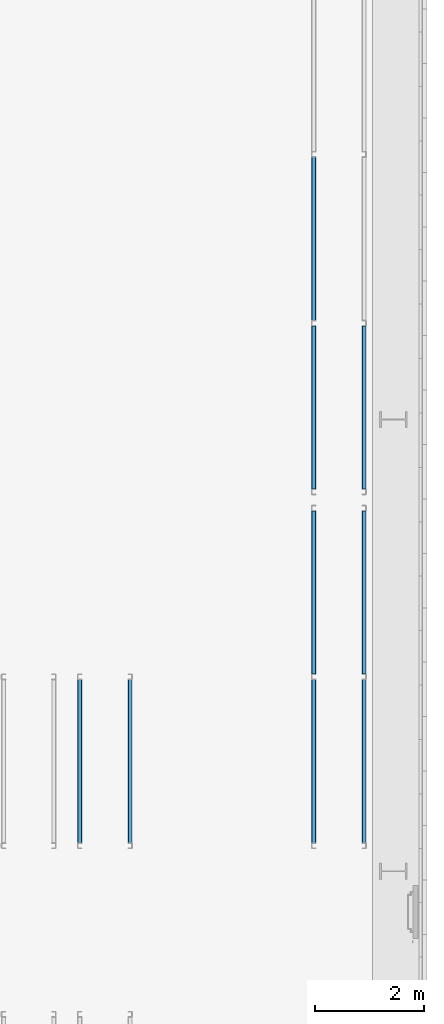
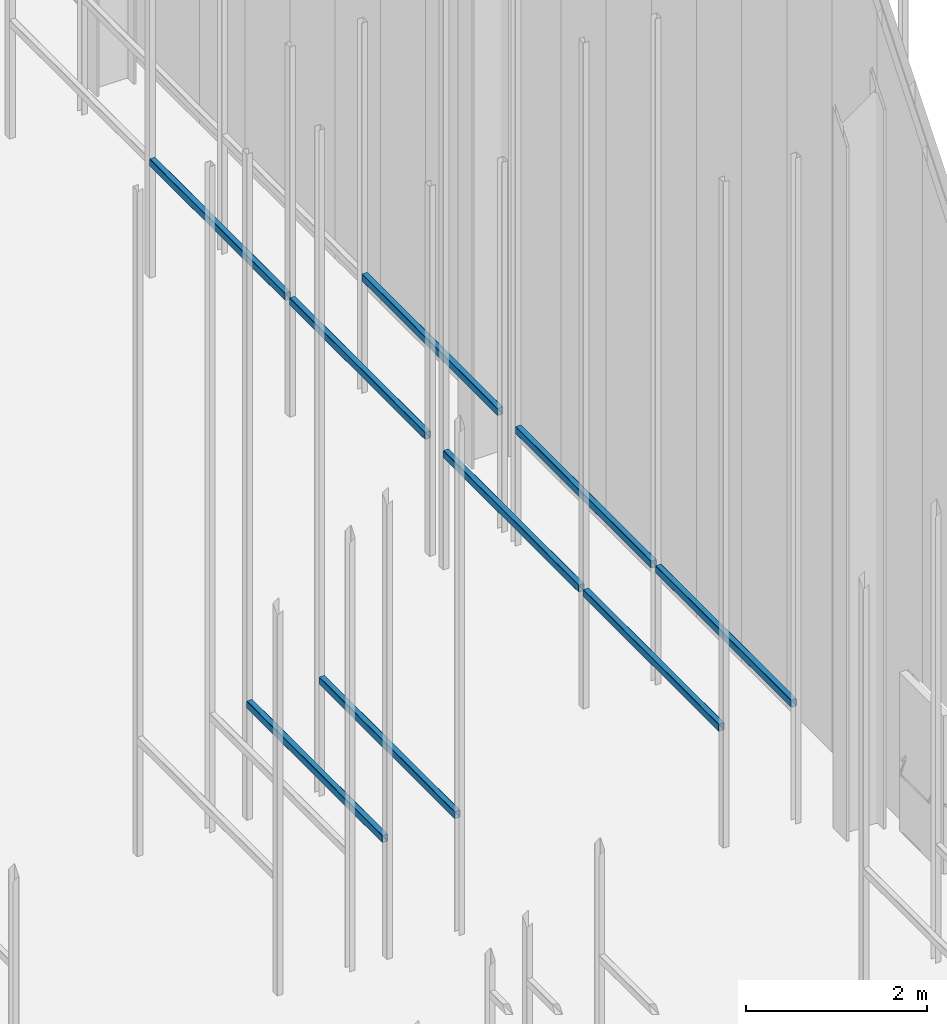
# One storey, part 156 of 302: 9 beams.
"""IFC2X3 building model written with IfcOpenShell, lengths in metres."""

from ifc_helpers import new_model, entity, si_unit, converted_unit, derived_unit, direction, frame, frame_2d, origin, place, context, subcontext, project, spatial, polyline, circle_curve, parameter, trimmed, segment, composite_curve, outline, extrude, material, type_object, element, save


model = new_model("IFC2X3")

# Units and contexts
model_context = context("Model", 3, precision=1e-05, world=origin(), true_north=direction((6.12303176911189e-17, 1.0)))
body_context = subcontext(model_context, "Body", "Model", "MODEL_VIEW")
ifc_project = project(units=[si_unit("LENGTHUNIT", "METRE"), si_unit("AREAUNIT", "SQUARE_METRE"), si_unit("VOLUMEUNIT", "CUBIC_METRE"), converted_unit("PLANEANGLEUNIT", "DEGREE", entity("IfcRatioMeasure", 0.0174532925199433), si_unit("PLANEANGLEUNIT", "RADIAN"), dimensions=[0, 0, 0, 0, 0, 0, 0]), si_unit("MASSUNIT", "GRAM", prefix="KILO"), derived_unit("MASSDENSITYUNIT", [(si_unit("MASSUNIT", "GRAM", prefix="KILO"), 1), (si_unit("LENGTHUNIT", "METRE"), -3)]), derived_unit("MOMENTOFINERTIAUNIT", [(si_unit("LENGTHUNIT", "METRE"), 4)]), si_unit("TIMEUNIT", "SECOND"), si_unit("FREQUENCYUNIT", "HERTZ"), si_unit("THERMODYNAMICTEMPERATUREUNIT", "DEGREE_CELSIUS"), derived_unit("THERMALTRANSMITTANCEUNIT", [(si_unit("MASSUNIT", "GRAM", prefix="KILO"), 1), (si_unit("THERMODYNAMICTEMPERATUREUNIT", "KELVIN"), -1), (si_unit("TIMEUNIT", "SECOND"), -3)]), derived_unit("VOLUMETRICFLOWRATEUNIT", [(si_unit("LENGTHUNIT", "METRE"), 3), (si_unit("TIMEUNIT", "SECOND"), -1)]), si_unit("ELECTRICCURRENTUNIT", "AMPERE"), si_unit("ELECTRICVOLTAGEUNIT", "VOLT"), si_unit("POWERUNIT", "WATT"), si_unit("FORCEUNIT", "NEWTON", prefix="KILO"), si_unit("ILLUMINANCEUNIT", "LUX"), si_unit("LUMINOUSFLUXUNIT", "LUMEN"), si_unit("LUMINOUSINTENSITYUNIT", "CANDELA"), derived_unit("USERDEFINED", [(si_unit("MASSUNIT", "GRAM", prefix="KILO"), -1), (si_unit("LENGTHUNIT", "METRE"), -2), (si_unit("TIMEUNIT", "SECOND"), 3), (si_unit("LUMINOUSFLUXUNIT", "LUMEN"), 1)]), derived_unit("LINEARVELOCITYUNIT", [(si_unit("LENGTHUNIT", "METRE"), 1), (si_unit("TIMEUNIT", "SECOND"), -1)]), si_unit("PRESSUREUNIT", "PASCAL"), derived_unit("USERDEFINED", [(si_unit("LENGTHUNIT", "METRE"), -2), (si_unit("MASSUNIT", "GRAM", prefix="KILO"), 1), (si_unit("TIMEUNIT", "SECOND"), -2)]), derived_unit("LINEARFORCEUNIT", [(si_unit("MASSUNIT", "GRAM", prefix="KILO"), 1), (si_unit("LENGTHUNIT", "METRE"), 1), (si_unit("TIMEUNIT", "SECOND"), -2), (si_unit("LENGTHUNIT", "METRE"), -1)]), derived_unit("PLANARFORCEUNIT", [(si_unit("MASSUNIT", "GRAM", prefix="KILO"), 1), (si_unit("LENGTHUNIT", "METRE"), 1), (si_unit("TIMEUNIT", "SECOND"), -2), (si_unit("LENGTHUNIT", "METRE"), -2)])], contexts=[model_context])

# Site, building, storey
site_placement = place(None, origin())
site = spatial("IfcSite", under=ifc_project, at=site_placement, Name="Default", CompositionType="ELEMENT")
building_placement = place(site_placement, origin())
building = spatial("IfcBuilding", under=site, at=building_placement, CompositionType="ELEMENT")
storey_placement = place(building_placement, frame((0.0, 0.0, -1.3)))
storey = spatial("IfcBuildingStorey", under=building, at=storey_placement, Name="00_EG", CompositionType="ELEMENT", Elevation=-1.3)

# Beams
ifc_material = material(Name="Metall - Baustahl S235 blau")
beam_type = type_object("IfcBeamType", Name="RHS Träger (EN 10219-2):RHS 100 x 75 x 5", PredefinedType="NOTDEFINED")
beam_1_placement = place(storey_placement, frame((-179.315111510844, 58.4480889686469, 2.885), z_axis=(0.0, 0.0, 1.0), x_axis=(0.0, 1.0, 0.0)))
element("IfcBeam", 1, at=beam_1_placement, inside=storey, type_object=beam_type, material=ifc_material, Name="RHS Träger (EN 10219-2):RHS 100 x 75 x 5", ObjectType="RHS Träger (EN 10219-2):RHS 100 x 75 x 5", context=body_context, shape_type="SweptSolid", body=[
    extrude(outline(composite_curve([segment(trimmed(circle_curve(frame_2d((-0.0274999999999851, -0.0400000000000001), x_axis=(1.0, 0.0)), 0.01), [parameter(180.0)], [parameter(270.0)], True, "PARAMETER"), True, "CONTINUOUS"), segment(polyline([(-0.0274999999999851, -0.05), (0.0274999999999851, -0.05)]), True, "CONTINUOUS"), segment(trimmed(circle_curve(frame_2d((0.0274999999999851, -0.0400000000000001), x_axis=(1.0, 0.0)), 0.01), [parameter(270.0)], [parameter(5.08888749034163e-14)], True, "PARAMETER"), True, "CONTINUOUS"), segment(polyline([(0.0375000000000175, -0.0399999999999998), (0.0375000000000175, 0.0400000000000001)]), True, "CONTINUOUS"), segment(trimmed(circle_curve(frame_2d((0.0274999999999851, 0.0399999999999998), x_axis=(1.0, 0.0)), 0.01), [parameter(360.0)], [parameter(89.9999999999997)], True, "PARAMETER"), True, "CONTINUOUS"), segment(polyline([(0.0274999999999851, 0.05), (-0.0274999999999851, 0.05)]), True, "CONTINUOUS"), segment(trimmed(circle_curve(frame_2d((-0.0274999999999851, 0.0399999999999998), x_axis=(1.0, 0.0)), 0.01), [parameter(90.0000000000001)], [parameter(180.0)], True, "PARAMETER"), True, "CONTINUOUS"), segment(polyline([(-0.0374999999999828, 0.0400000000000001), (-0.0374999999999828, -0.0399999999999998)]), True, "CONTINUOUS")], self_intersect=False), holes=[composite_curve([segment(polyline([(0.0274999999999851, -0.0450000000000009), (-0.0274999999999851, -0.0450000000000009)]), True, "CONTINUOUS"), segment(trimmed(circle_curve(frame_2d((-0.0274999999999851, -0.0400000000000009), x_axis=(1.0, 0.0)), 0.005), [parameter(180.0)], [parameter(270.0)], True, "PARAMETER"), False, "CONTINUOUS"), segment(polyline([(-0.0325000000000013, -0.0400000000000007), (-0.0325000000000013, 0.0399999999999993)]), True, "CONTINUOUS"), segment(trimmed(circle_curve(frame_2d((-0.0274999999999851, 0.039999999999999), x_axis=(1.0, 0.0)), 0.005), [parameter(90.0000000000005)], [parameter(180.0)], True, "PARAMETER"), False, "CONTINUOUS"), segment(polyline([(-0.0274999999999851, 0.0449999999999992), (0.0274999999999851, 0.0449999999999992)]), True, "CONTINUOUS"), segment(trimmed(circle_curve(frame_2d((0.0274999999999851, 0.039999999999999), x_axis=(1.0, 0.0)), 0.005), [parameter(0.0)], [parameter(90.0000000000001)], True, "PARAMETER"), False, "CONTINUOUS"), segment(polyline([(0.0325000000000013, 0.0399999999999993), (0.0325000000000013, -0.0400000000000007)]), True, "CONTINUOUS"), segment(trimmed(circle_curve(frame_2d((0.0274999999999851, -0.0400000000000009), x_axis=(1.0, 0.0)), 0.005), [parameter(270.0)], [parameter(4.07110999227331e-13)], True, "PARAMETER"), False, "CONTINUOUS")], self_intersect=False)]), frame((9.99999999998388e-05, 0.0375000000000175, -0.0500000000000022), z_axis=(1.0, 0.0, 0.0), x_axis=(0.0, -1.0, 0.0)), (0.0, 0.0, 1.0), 2.99979999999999),
])
beam_2_placement = place(storey_placement, frame((-179.315111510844, 55.3480889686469, 2.885), z_axis=(0.0, 0.0, 1.0), x_axis=(0.0, 1.0, 0.0)))
element("IfcBeam", 2, at=beam_2_placement, inside=storey, type_object=beam_type, material=ifc_material, Name="RHS Träger (EN 10219-2):RHS 100 x 75 x 5", ObjectType="RHS Träger (EN 10219-2):RHS 100 x 75 x 5", context=body_context, shape_type="SweptSolid", body=[
    extrude(outline(composite_curve([segment(trimmed(circle_curve(frame_2d((-0.0274999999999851, -0.0400000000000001), x_axis=(1.0, 0.0)), 0.01), [parameter(180.0)], [parameter(270.0)], True, "PARAMETER"), True, "CONTINUOUS"), segment(polyline([(-0.0274999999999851, -0.05), (0.0274999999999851, -0.05)]), True, "CONTINUOUS"), segment(trimmed(circle_curve(frame_2d((0.0274999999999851, -0.0400000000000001), x_axis=(1.0, 0.0)), 0.01), [parameter(270.0)], [parameter(5.08888749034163e-14)], True, "PARAMETER"), True, "CONTINUOUS"), segment(polyline([(0.0375000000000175, -0.0399999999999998), (0.0375000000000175, 0.0400000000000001)]), True, "CONTINUOUS"), segment(trimmed(circle_curve(frame_2d((0.0274999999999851, 0.0399999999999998), x_axis=(1.0, 0.0)), 0.01), [parameter(360.0)], [parameter(89.9999999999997)], True, "PARAMETER"), True, "CONTINUOUS"), segment(polyline([(0.0274999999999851, 0.05), (-0.0274999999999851, 0.05)]), True, "CONTINUOUS"), segment(trimmed(circle_curve(frame_2d((-0.0274999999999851, 0.0399999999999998), x_axis=(1.0, 0.0)), 0.01), [parameter(90.0000000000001)], [parameter(180.0)], True, "PARAMETER"), True, "CONTINUOUS"), segment(polyline([(-0.0374999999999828, 0.0400000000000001), (-0.0374999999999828, -0.0399999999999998)]), True, "CONTINUOUS")], self_intersect=False), holes=[composite_curve([segment(polyline([(0.0274999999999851, -0.0450000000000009), (-0.0274999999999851, -0.0450000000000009)]), True, "CONTINUOUS"), segment(trimmed(circle_curve(frame_2d((-0.0274999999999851, -0.0400000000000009), x_axis=(1.0, 0.0)), 0.005), [parameter(180.0)], [parameter(270.0)], True, "PARAMETER"), False, "CONTINUOUS"), segment(polyline([(-0.0325000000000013, -0.0400000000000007), (-0.0325000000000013, 0.0399999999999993)]), True, "CONTINUOUS"), segment(trimmed(circle_curve(frame_2d((-0.0274999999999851, 0.039999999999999), x_axis=(1.0, 0.0)), 0.005), [parameter(90.0000000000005)], [parameter(180.0)], True, "PARAMETER"), False, "CONTINUOUS"), segment(polyline([(-0.0274999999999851, 0.0449999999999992), (0.0274999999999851, 0.0449999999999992)]), True, "CONTINUOUS"), segment(trimmed(circle_curve(frame_2d((0.0274999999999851, 0.039999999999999), x_axis=(1.0, 0.0)), 0.005), [parameter(0.0)], [parameter(90.0000000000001)], True, "PARAMETER"), False, "CONTINUOUS"), segment(polyline([(0.0325000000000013, 0.0399999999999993), (0.0325000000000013, -0.0400000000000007)]), True, "CONTINUOUS"), segment(trimmed(circle_curve(frame_2d((0.0274999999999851, -0.0400000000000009), x_axis=(1.0, 0.0)), 0.005), [parameter(270.0)], [parameter(4.07110999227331e-13)], True, "PARAMETER"), False, "CONTINUOUS")], self_intersect=False)]), frame((9.99999999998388e-05, 0.0375000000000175, -0.0500000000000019), z_axis=(1.0, 0.0, 0.0), x_axis=(0.0, -1.0, 0.0)), (0.0, 0.0, 1.0), 2.99979999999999),
])
beam_3_placement = place(storey_placement, frame((-178.465111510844, 55.3480889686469, 2.885), z_axis=(0.0, 0.0, 1.0), x_axis=(0.0, 1.0, 0.0)))
element("IfcBeam", 3, at=beam_3_placement, inside=storey, type_object=beam_type, material=ifc_material, Name="RHS Träger (EN 10219-2):RHS 100 x 75 x 5", ObjectType="RHS Träger (EN 10219-2):RHS 100 x 75 x 5", context=body_context, shape_type="SweptSolid", body=[
    extrude(outline(composite_curve([segment(polyline([(-0.0399999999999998, -0.0374999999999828), (0.0400000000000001, -0.0374999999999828)]), True, "CONTINUOUS"), segment(trimmed(circle_curve(frame_2d((0.0399999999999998, -0.0274999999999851), x_axis=(0.0, 1.0)), 0.01), [parameter(180.0)], [parameter(270.0)], True, "PARAMETER"), True, "CONTINUOUS"), segment(polyline([(0.05, -0.0274999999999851), (0.05, 0.0274999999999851)]), True, "CONTINUOUS"), segment(trimmed(circle_curve(frame_2d((0.0399999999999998, 0.0274999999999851), x_axis=(0.0, 1.0)), 0.01), [parameter(270.0)], [parameter(4.07110999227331e-13)], True, "PARAMETER"), True, "CONTINUOUS"), segment(polyline([(0.0400000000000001, 0.0375000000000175), (-0.0399999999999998, 0.0375000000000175)]), True, "CONTINUOUS"), segment(trimmed(circle_curve(frame_2d((-0.0400000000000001, 0.0274999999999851), x_axis=(0.0, 1.0)), 0.01), [parameter(360.0)], [parameter(90.0000000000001)], True, "PARAMETER"), True, "CONTINUOUS"), segment(polyline([(-0.05, 0.0274999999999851), (-0.05, -0.0274999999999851)]), True, "CONTINUOUS"), segment(trimmed(circle_curve(frame_2d((-0.0400000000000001, -0.0274999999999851), x_axis=(0.0, 1.0)), 0.01), [parameter(90.0000000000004)], [parameter(180.0)], True, "PARAMETER"), True, "CONTINUOUS")], self_intersect=False), holes=[composite_curve([segment(trimmed(circle_curve(frame_2d((-0.0400000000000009, 0.0274999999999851), x_axis=(0.0, 1.0)), 0.005), [parameter(360.0)], [parameter(89.9999999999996)], True, "PARAMETER"), False, "CONTINUOUS"), segment(polyline([(-0.0400000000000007, 0.0325000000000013), (0.0399999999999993, 0.0325000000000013)]), True, "CONTINUOUS"), segment(trimmed(circle_curve(frame_2d((0.039999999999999, 0.0274999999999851), x_axis=(0.0, 1.0)), 0.005), [parameter(270.0)], [parameter(0.0)], True, "PARAMETER"), False, "CONTINUOUS"), segment(polyline([(0.0449999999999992, 0.0274999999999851), (0.0449999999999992, -0.0274999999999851)]), True, "CONTINUOUS"), segment(trimmed(circle_curve(frame_2d((0.039999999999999, -0.0274999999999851), x_axis=(0.0, 1.0)), 0.005), [parameter(180.0)], [parameter(269.999999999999)], True, "PARAMETER"), False, "CONTINUOUS"), segment(polyline([(0.0399999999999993, -0.0325000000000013), (-0.0400000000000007, -0.0325000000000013)]), True, "CONTINUOUS"), segment(trimmed(circle_curve(frame_2d((-0.0400000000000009, -0.0274999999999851), x_axis=(0.0, 1.0)), 0.005), [parameter(90.0000000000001)], [parameter(180.0)], True, "PARAMETER"), False, "CONTINUOUS"), segment(polyline([(-0.0450000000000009, -0.0274999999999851), (-0.0450000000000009, 0.0274999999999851)]), True, "CONTINUOUS")], self_intersect=False)]), frame((9.99999999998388e-05, -0.0375000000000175, -0.0500000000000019), z_axis=(1.0, 0.0, 0.0), x_axis=(0.0, 0.0, -1.0)), (0.0, 0.0, 1.0), 2.99979999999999),
])
beam_4_placement = place(storey_placement, frame((-183.615111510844, 48.8480889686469, 2.885), z_axis=(0.0, 0.0, 1.0), x_axis=(0.0, 1.0, 0.0)))
element("IfcBeam", 4, at=beam_4_placement, inside=storey, type_object=beam_type, material=ifc_material, Name="RHS Träger (EN 10219-2):RHS 100 x 75 x 5", ObjectType="RHS Träger (EN 10219-2):RHS 100 x 75 x 5", context=body_context, shape_type="SweptSolid", body=[
    extrude(outline(composite_curve([segment(trimmed(circle_curve(frame_2d((-0.0274999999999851, -0.0400000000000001), x_axis=(1.0, 0.0)), 0.01), [parameter(180.0)], [parameter(270.0)], True, "PARAMETER"), True, "CONTINUOUS"), segment(polyline([(-0.0274999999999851, -0.05), (0.0274999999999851, -0.05)]), True, "CONTINUOUS"), segment(trimmed(circle_curve(frame_2d((0.0274999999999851, -0.0400000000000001), x_axis=(1.0, 0.0)), 0.01), [parameter(270.0)], [parameter(5.08888749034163e-14)], True, "PARAMETER"), True, "CONTINUOUS"), segment(polyline([(0.0375000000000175, -0.0399999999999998), (0.0375000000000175, 0.0400000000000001)]), True, "CONTINUOUS"), segment(trimmed(circle_curve(frame_2d((0.0274999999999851, 0.0399999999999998), x_axis=(1.0, 0.0)), 0.01), [parameter(360.0)], [parameter(89.9999999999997)], True, "PARAMETER"), True, "CONTINUOUS"), segment(polyline([(0.0274999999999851, 0.05), (-0.0274999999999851, 0.05)]), True, "CONTINUOUS"), segment(trimmed(circle_curve(frame_2d((-0.0274999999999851, 0.0399999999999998), x_axis=(1.0, 0.0)), 0.01), [parameter(90.0000000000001)], [parameter(180.0)], True, "PARAMETER"), True, "CONTINUOUS"), segment(polyline([(-0.0374999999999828, 0.0400000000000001), (-0.0374999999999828, -0.0399999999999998)]), True, "CONTINUOUS")], self_intersect=False), holes=[composite_curve([segment(polyline([(0.0274999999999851, -0.0450000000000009), (-0.0274999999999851, -0.0450000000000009)]), True, "CONTINUOUS"), segment(trimmed(circle_curve(frame_2d((-0.0274999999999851, -0.0400000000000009), x_axis=(1.0, 0.0)), 0.005), [parameter(180.0)], [parameter(270.0)], True, "PARAMETER"), False, "CONTINUOUS"), segment(polyline([(-0.0325000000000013, -0.0400000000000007), (-0.0325000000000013, 0.0399999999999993)]), True, "CONTINUOUS"), segment(trimmed(circle_curve(frame_2d((-0.0274999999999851, 0.039999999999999), x_axis=(1.0, 0.0)), 0.005), [parameter(90.0000000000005)], [parameter(180.0)], True, "PARAMETER"), False, "CONTINUOUS"), segment(polyline([(-0.0274999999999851, 0.0449999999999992), (0.0274999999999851, 0.0449999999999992)]), True, "CONTINUOUS"), segment(trimmed(circle_curve(frame_2d((0.0274999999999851, 0.039999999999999), x_axis=(1.0, 0.0)), 0.005), [parameter(0.0)], [parameter(90.0000000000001)], True, "PARAMETER"), False, "CONTINUOUS"), segment(polyline([(0.0325000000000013, 0.0399999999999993), (0.0325000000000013, -0.0400000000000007)]), True, "CONTINUOUS"), segment(trimmed(circle_curve(frame_2d((0.0274999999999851, -0.0400000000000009), x_axis=(1.0, 0.0)), 0.005), [parameter(270.0)], [parameter(4.07110999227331e-13)], True, "PARAMETER"), False, "CONTINUOUS")], self_intersect=False)]), frame((0.000100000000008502, 0.0375000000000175, -0.0500000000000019), z_axis=(1.0, 0.0, 0.0), x_axis=(0.0, -1.0, 0.0)), (0.0, 0.0, 1.0), 2.99979999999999),
])
beam_5_placement = place(storey_placement, frame((-182.765111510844, 48.8480889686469, 2.885), z_axis=(0.0, 0.0, 1.0), x_axis=(0.0, 1.0, 0.0)))
element("IfcBeam", 5, at=beam_5_placement, inside=storey, type_object=beam_type, material=ifc_material, Name="RHS Träger (EN 10219-2):RHS 100 x 75 x 5", ObjectType="RHS Träger (EN 10219-2):RHS 100 x 75 x 5", context=body_context, shape_type="SweptSolid", body=[
    extrude(outline(composite_curve([segment(polyline([(-0.0399999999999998, -0.0374999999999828), (0.0400000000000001, -0.0374999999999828)]), True, "CONTINUOUS"), segment(trimmed(circle_curve(frame_2d((0.0399999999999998, -0.0274999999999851), x_axis=(0.0, 1.0)), 0.01), [parameter(180.0)], [parameter(270.0)], True, "PARAMETER"), True, "CONTINUOUS"), segment(polyline([(0.05, -0.0274999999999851), (0.05, 0.0274999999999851)]), True, "CONTINUOUS"), segment(trimmed(circle_curve(frame_2d((0.0399999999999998, 0.0274999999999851), x_axis=(0.0, 1.0)), 0.01), [parameter(270.0)], [parameter(4.07110999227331e-13)], True, "PARAMETER"), True, "CONTINUOUS"), segment(polyline([(0.0400000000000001, 0.0375000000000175), (-0.0399999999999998, 0.0375000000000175)]), True, "CONTINUOUS"), segment(trimmed(circle_curve(frame_2d((-0.0400000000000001, 0.0274999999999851), x_axis=(0.0, 1.0)), 0.01), [parameter(360.0)], [parameter(90.0000000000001)], True, "PARAMETER"), True, "CONTINUOUS"), segment(polyline([(-0.05, 0.0274999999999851), (-0.05, -0.0274999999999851)]), True, "CONTINUOUS"), segment(trimmed(circle_curve(frame_2d((-0.0400000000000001, -0.0274999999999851), x_axis=(0.0, 1.0)), 0.01), [parameter(90.0000000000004)], [parameter(180.0)], True, "PARAMETER"), True, "CONTINUOUS")], self_intersect=False), holes=[composite_curve([segment(trimmed(circle_curve(frame_2d((-0.0400000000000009, 0.0274999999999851), x_axis=(0.0, 1.0)), 0.005), [parameter(360.0)], [parameter(89.9999999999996)], True, "PARAMETER"), False, "CONTINUOUS"), segment(polyline([(-0.0400000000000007, 0.0325000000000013), (0.0399999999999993, 0.0325000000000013)]), True, "CONTINUOUS"), segment(trimmed(circle_curve(frame_2d((0.039999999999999, 0.0274999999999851), x_axis=(0.0, 1.0)), 0.005), [parameter(270.0)], [parameter(0.0)], True, "PARAMETER"), False, "CONTINUOUS"), segment(polyline([(0.0449999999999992, 0.0274999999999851), (0.0449999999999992, -0.0274999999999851)]), True, "CONTINUOUS"), segment(trimmed(circle_curve(frame_2d((0.039999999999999, -0.0274999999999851), x_axis=(0.0, 1.0)), 0.005), [parameter(180.0)], [parameter(269.999999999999)], True, "PARAMETER"), False, "CONTINUOUS"), segment(polyline([(0.0399999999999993, -0.0325000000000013), (-0.0400000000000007, -0.0325000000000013)]), True, "CONTINUOUS"), segment(trimmed(circle_curve(frame_2d((-0.0400000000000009, -0.0274999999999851), x_axis=(0.0, 1.0)), 0.005), [parameter(90.0000000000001)], [parameter(180.0)], True, "PARAMETER"), False, "CONTINUOUS"), segment(polyline([(-0.0450000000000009, -0.0274999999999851), (-0.0450000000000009, 0.0274999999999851)]), True, "CONTINUOUS")], self_intersect=False)]), frame((0.000100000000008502, -0.0375000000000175, -0.0500000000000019), z_axis=(1.0, 0.0, 0.0), x_axis=(0.0, 0.0, -1.0)), (0.0, 0.0, 1.0), 2.99979999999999),
])
beam_6_placement = place(storey_placement, frame((-179.315111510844, 48.8480889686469, 2.885), z_axis=(0.0, 0.0, 1.0), x_axis=(0.0, 1.0, 0.0)))
element("IfcBeam", 6, at=beam_6_placement, inside=storey, type_object=beam_type, material=ifc_material, Name="RHS Träger (EN 10219-2):RHS 100 x 75 x 5", ObjectType="RHS Träger (EN 10219-2):RHS 100 x 75 x 5", context=body_context, shape_type="SweptSolid", body=[
    extrude(outline(composite_curve([segment(trimmed(circle_curve(frame_2d((-0.0274999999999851, -0.0400000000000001), x_axis=(1.0, 0.0)), 0.01), [parameter(180.0)], [parameter(270.0)], True, "PARAMETER"), True, "CONTINUOUS"), segment(polyline([(-0.0274999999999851, -0.05), (0.0274999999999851, -0.05)]), True, "CONTINUOUS"), segment(trimmed(circle_curve(frame_2d((0.0274999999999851, -0.0400000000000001), x_axis=(1.0, 0.0)), 0.01), [parameter(270.0)], [parameter(5.08888749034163e-14)], True, "PARAMETER"), True, "CONTINUOUS"), segment(polyline([(0.0375000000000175, -0.0399999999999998), (0.0375000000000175, 0.0400000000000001)]), True, "CONTINUOUS"), segment(trimmed(circle_curve(frame_2d((0.0274999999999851, 0.0399999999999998), x_axis=(1.0, 0.0)), 0.01), [parameter(360.0)], [parameter(89.9999999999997)], True, "PARAMETER"), True, "CONTINUOUS"), segment(polyline([(0.0274999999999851, 0.05), (-0.0274999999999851, 0.05)]), True, "CONTINUOUS"), segment(trimmed(circle_curve(frame_2d((-0.0274999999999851, 0.0399999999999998), x_axis=(1.0, 0.0)), 0.01), [parameter(90.0000000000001)], [parameter(180.0)], True, "PARAMETER"), True, "CONTINUOUS"), segment(polyline([(-0.0374999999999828, 0.0400000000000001), (-0.0374999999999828, -0.0399999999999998)]), True, "CONTINUOUS")], self_intersect=False), holes=[composite_curve([segment(polyline([(0.0274999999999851, -0.0450000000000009), (-0.0274999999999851, -0.0450000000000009)]), True, "CONTINUOUS"), segment(trimmed(circle_curve(frame_2d((-0.0274999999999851, -0.0400000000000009), x_axis=(1.0, 0.0)), 0.005), [parameter(180.0)], [parameter(270.0)], True, "PARAMETER"), False, "CONTINUOUS"), segment(polyline([(-0.0325000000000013, -0.0400000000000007), (-0.0325000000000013, 0.0399999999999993)]), True, "CONTINUOUS"), segment(trimmed(circle_curve(frame_2d((-0.0274999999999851, 0.039999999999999), x_axis=(1.0, 0.0)), 0.005), [parameter(90.0000000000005)], [parameter(180.0)], True, "PARAMETER"), False, "CONTINUOUS"), segment(polyline([(-0.0274999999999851, 0.0449999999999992), (0.0274999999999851, 0.0449999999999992)]), True, "CONTINUOUS"), segment(trimmed(circle_curve(frame_2d((0.0274999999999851, 0.039999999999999), x_axis=(1.0, 0.0)), 0.005), [parameter(0.0)], [parameter(90.0000000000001)], True, "PARAMETER"), False, "CONTINUOUS"), segment(polyline([(0.0325000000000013, 0.0399999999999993), (0.0325000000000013, -0.0400000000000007)]), True, "CONTINUOUS"), segment(trimmed(circle_curve(frame_2d((0.0274999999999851, -0.0400000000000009), x_axis=(1.0, 0.0)), 0.005), [parameter(270.0)], [parameter(4.07110999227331e-13)], True, "PARAMETER"), False, "CONTINUOUS")], self_intersect=False)]), frame((0.000100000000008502, 0.0375000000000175, -0.0500000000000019), z_axis=(1.0, 0.0, 0.0), x_axis=(0.0, -1.0, 0.0)), (0.0, 0.0, 1.0), 2.99979999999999),
])
beam_7_placement = place(storey_placement, frame((-178.465111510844, 48.8480889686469, 2.885), z_axis=(0.0, 0.0, 1.0), x_axis=(0.0, 1.0, 0.0)))
element("IfcBeam", 7, at=beam_7_placement, inside=storey, type_object=beam_type, material=ifc_material, Name="RHS Träger (EN 10219-2):RHS 100 x 75 x 5", ObjectType="RHS Träger (EN 10219-2):RHS 100 x 75 x 5", context=body_context, shape_type="SweptSolid", body=[
    extrude(outline(composite_curve([segment(polyline([(-0.0399999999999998, -0.0374999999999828), (0.0400000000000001, -0.0374999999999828)]), True, "CONTINUOUS"), segment(trimmed(circle_curve(frame_2d((0.0399999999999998, -0.0274999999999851), x_axis=(0.0, 1.0)), 0.01), [parameter(180.0)], [parameter(270.0)], True, "PARAMETER"), True, "CONTINUOUS"), segment(polyline([(0.05, -0.0274999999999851), (0.05, 0.0274999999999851)]), True, "CONTINUOUS"), segment(trimmed(circle_curve(frame_2d((0.0399999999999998, 0.0274999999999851), x_axis=(0.0, 1.0)), 0.01), [parameter(270.0)], [parameter(4.07110999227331e-13)], True, "PARAMETER"), True, "CONTINUOUS"), segment(polyline([(0.0400000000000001, 0.0375000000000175), (-0.0399999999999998, 0.0375000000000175)]), True, "CONTINUOUS"), segment(trimmed(circle_curve(frame_2d((-0.0400000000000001, 0.0274999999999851), x_axis=(0.0, 1.0)), 0.01), [parameter(360.0)], [parameter(90.0000000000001)], True, "PARAMETER"), True, "CONTINUOUS"), segment(polyline([(-0.05, 0.0274999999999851), (-0.05, -0.0274999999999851)]), True, "CONTINUOUS"), segment(trimmed(circle_curve(frame_2d((-0.0400000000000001, -0.0274999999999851), x_axis=(0.0, 1.0)), 0.01), [parameter(90.0000000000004)], [parameter(180.0)], True, "PARAMETER"), True, "CONTINUOUS")], self_intersect=False), holes=[composite_curve([segment(trimmed(circle_curve(frame_2d((-0.0400000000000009, 0.0274999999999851), x_axis=(0.0, 1.0)), 0.005), [parameter(360.0)], [parameter(89.9999999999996)], True, "PARAMETER"), False, "CONTINUOUS"), segment(polyline([(-0.0400000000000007, 0.0325000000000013), (0.0399999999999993, 0.0325000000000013)]), True, "CONTINUOUS"), segment(trimmed(circle_curve(frame_2d((0.039999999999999, 0.0274999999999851), x_axis=(0.0, 1.0)), 0.005), [parameter(270.0)], [parameter(0.0)], True, "PARAMETER"), False, "CONTINUOUS"), segment(polyline([(0.0449999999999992, 0.0274999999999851), (0.0449999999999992, -0.0274999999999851)]), True, "CONTINUOUS"), segment(trimmed(circle_curve(frame_2d((0.039999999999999, -0.0274999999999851), x_axis=(0.0, 1.0)), 0.005), [parameter(180.0)], [parameter(269.999999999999)], True, "PARAMETER"), False, "CONTINUOUS"), segment(polyline([(0.0399999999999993, -0.0325000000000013), (-0.0400000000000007, -0.0325000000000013)]), True, "CONTINUOUS"), segment(trimmed(circle_curve(frame_2d((-0.0400000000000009, -0.0274999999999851), x_axis=(0.0, 1.0)), 0.005), [parameter(90.0000000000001)], [parameter(180.0)], True, "PARAMETER"), False, "CONTINUOUS"), segment(polyline([(-0.0450000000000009, -0.0274999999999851), (-0.0450000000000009, 0.0274999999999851)]), True, "CONTINUOUS")], self_intersect=False)]), frame((0.000100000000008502, -0.0375000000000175, -0.0500000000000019), z_axis=(1.0, 0.0, 0.0), x_axis=(0.0, 0.0, -1.0)), (0.0, 0.0, 1.0), 2.99979999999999),
])
beam_8_placement = place(storey_placement, frame((-179.315111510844, 51.9480889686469, 2.885), z_axis=(0.0, 0.0, 1.0), x_axis=(0.0, 1.0, 0.0)))
element("IfcBeam", 8, at=beam_8_placement, inside=storey, type_object=beam_type, material=ifc_material, Name="RHS Träger (EN 10219-2):RHS 100 x 75 x 5", ObjectType="RHS Träger (EN 10219-2):RHS 100 x 75 x 5", context=body_context, shape_type="SweptSolid", body=[
    extrude(outline(composite_curve([segment(trimmed(circle_curve(frame_2d((-0.0274999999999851, -0.0400000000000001), x_axis=(1.0, 0.0)), 0.01), [parameter(180.0)], [parameter(270.0)], True, "PARAMETER"), True, "CONTINUOUS"), segment(polyline([(-0.0274999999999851, -0.05), (0.0274999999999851, -0.05)]), True, "CONTINUOUS"), segment(trimmed(circle_curve(frame_2d((0.0274999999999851, -0.0400000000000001), x_axis=(1.0, 0.0)), 0.01), [parameter(270.0)], [parameter(5.08888749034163e-14)], True, "PARAMETER"), True, "CONTINUOUS"), segment(polyline([(0.0375000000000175, -0.0399999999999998), (0.0375000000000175, 0.0400000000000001)]), True, "CONTINUOUS"), segment(trimmed(circle_curve(frame_2d((0.0274999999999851, 0.0399999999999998), x_axis=(1.0, 0.0)), 0.01), [parameter(360.0)], [parameter(89.9999999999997)], True, "PARAMETER"), True, "CONTINUOUS"), segment(polyline([(0.0274999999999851, 0.05), (-0.0274999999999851, 0.05)]), True, "CONTINUOUS"), segment(trimmed(circle_curve(frame_2d((-0.0274999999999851, 0.0399999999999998), x_axis=(1.0, 0.0)), 0.01), [parameter(90.0000000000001)], [parameter(180.0)], True, "PARAMETER"), True, "CONTINUOUS"), segment(polyline([(-0.0374999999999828, 0.0400000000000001), (-0.0374999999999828, -0.0399999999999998)]), True, "CONTINUOUS")], self_intersect=False), holes=[composite_curve([segment(polyline([(0.0274999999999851, -0.0450000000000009), (-0.0274999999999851, -0.0450000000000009)]), True, "CONTINUOUS"), segment(trimmed(circle_curve(frame_2d((-0.0274999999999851, -0.0400000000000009), x_axis=(1.0, 0.0)), 0.005), [parameter(180.0)], [parameter(270.0)], True, "PARAMETER"), False, "CONTINUOUS"), segment(polyline([(-0.0325000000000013, -0.0400000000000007), (-0.0325000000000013, 0.0399999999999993)]), True, "CONTINUOUS"), segment(trimmed(circle_curve(frame_2d((-0.0274999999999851, 0.039999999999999), x_axis=(1.0, 0.0)), 0.005), [parameter(90.0000000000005)], [parameter(180.0)], True, "PARAMETER"), False, "CONTINUOUS"), segment(polyline([(-0.0274999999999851, 0.0449999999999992), (0.0274999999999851, 0.0449999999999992)]), True, "CONTINUOUS"), segment(trimmed(circle_curve(frame_2d((0.0274999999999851, 0.039999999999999), x_axis=(1.0, 0.0)), 0.005), [parameter(0.0)], [parameter(90.0000000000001)], True, "PARAMETER"), False, "CONTINUOUS"), segment(polyline([(0.0325000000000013, 0.0399999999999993), (0.0325000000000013, -0.0400000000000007)]), True, "CONTINUOUS"), segment(trimmed(circle_curve(frame_2d((0.0274999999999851, -0.0400000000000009), x_axis=(1.0, 0.0)), 0.005), [parameter(270.0)], [parameter(4.07110999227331e-13)], True, "PARAMETER"), False, "CONTINUOUS")], self_intersect=False)]), frame((0.000100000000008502, 0.0375000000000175, -0.0500000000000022), z_axis=(1.0, 0.0, 0.0), x_axis=(0.0, -1.0, 0.0)), (0.0, 0.0, 1.0), 2.99979999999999),
])
beam_9_placement = place(storey_placement, frame((-178.465111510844, 51.9480889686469, 2.885), z_axis=(0.0, 0.0, 1.0), x_axis=(0.0, 1.0, 0.0)))
element("IfcBeam", 9, at=beam_9_placement, inside=storey, type_object=beam_type, material=ifc_material, Name="RHS Träger (EN 10219-2):RHS 100 x 75 x 5", ObjectType="RHS Träger (EN 10219-2):RHS 100 x 75 x 5", context=body_context, shape_type="SweptSolid", body=[
    extrude(outline(composite_curve([segment(polyline([(-0.0399999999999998, -0.0374999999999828), (0.0400000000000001, -0.0374999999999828)]), True, "CONTINUOUS"), segment(trimmed(circle_curve(frame_2d((0.0399999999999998, -0.0274999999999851), x_axis=(0.0, 1.0)), 0.01), [parameter(180.0)], [parameter(270.0)], True, "PARAMETER"), True, "CONTINUOUS"), segment(polyline([(0.05, -0.0274999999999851), (0.05, 0.0274999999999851)]), True, "CONTINUOUS"), segment(trimmed(circle_curve(frame_2d((0.0399999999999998, 0.0274999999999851), x_axis=(0.0, 1.0)), 0.01), [parameter(270.0)], [parameter(4.07110999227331e-13)], True, "PARAMETER"), True, "CONTINUOUS"), segment(polyline([(0.0400000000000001, 0.0375000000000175), (-0.0399999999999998, 0.0375000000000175)]), True, "CONTINUOUS"), segment(trimmed(circle_curve(frame_2d((-0.0400000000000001, 0.0274999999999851), x_axis=(0.0, 1.0)), 0.01), [parameter(360.0)], [parameter(90.0000000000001)], True, "PARAMETER"), True, "CONTINUOUS"), segment(polyline([(-0.05, 0.0274999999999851), (-0.05, -0.0274999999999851)]), True, "CONTINUOUS"), segment(trimmed(circle_curve(frame_2d((-0.0400000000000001, -0.0274999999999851), x_axis=(0.0, 1.0)), 0.01), [parameter(90.0000000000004)], [parameter(180.0)], True, "PARAMETER"), True, "CONTINUOUS")], self_intersect=False), holes=[composite_curve([segment(trimmed(circle_curve(frame_2d((-0.0400000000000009, 0.0274999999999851), x_axis=(0.0, 1.0)), 0.005), [parameter(360.0)], [parameter(89.9999999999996)], True, "PARAMETER"), False, "CONTINUOUS"), segment(polyline([(-0.0400000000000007, 0.0325000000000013), (0.0399999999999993, 0.0325000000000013)]), True, "CONTINUOUS"), segment(trimmed(circle_curve(frame_2d((0.039999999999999, 0.0274999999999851), x_axis=(0.0, 1.0)), 0.005), [parameter(270.0)], [parameter(0.0)], True, "PARAMETER"), False, "CONTINUOUS"), segment(polyline([(0.0449999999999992, 0.0274999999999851), (0.0449999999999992, -0.0274999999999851)]), True, "CONTINUOUS"), segment(trimmed(circle_curve(frame_2d((0.039999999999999, -0.0274999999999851), x_axis=(0.0, 1.0)), 0.005), [parameter(180.0)], [parameter(269.999999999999)], True, "PARAMETER"), False, "CONTINUOUS"), segment(polyline([(0.0399999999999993, -0.0325000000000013), (-0.0400000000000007, -0.0325000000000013)]), True, "CONTINUOUS"), segment(trimmed(circle_curve(frame_2d((-0.0400000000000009, -0.0274999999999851), x_axis=(0.0, 1.0)), 0.005), [parameter(90.0000000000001)], [parameter(180.0)], True, "PARAMETER"), False, "CONTINUOUS"), segment(polyline([(-0.0450000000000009, -0.0274999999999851), (-0.0450000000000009, 0.0274999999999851)]), True, "CONTINUOUS")], self_intersect=False)]), frame((0.000100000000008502, -0.0375000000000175, -0.0500000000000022), z_axis=(1.0, 0.0, 0.0), x_axis=(0.0, 0.0, -1.0)), (0.0, 0.0, 1.0), 2.99979999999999),
])

save(model, "model.ifc")
